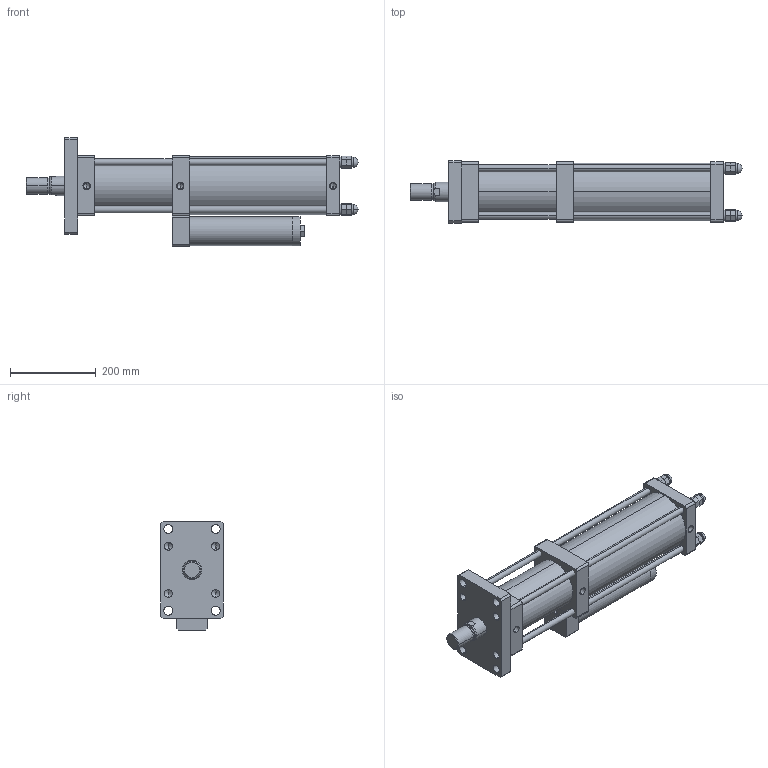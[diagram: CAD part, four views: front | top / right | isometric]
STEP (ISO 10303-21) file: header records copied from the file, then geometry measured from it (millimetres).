
FILE_DESCRIPTION (( 'STEP AP203' ), '1' );
FILE_NAME ('MPTC-100-15-13T.STEP', '2016-03-29T06:57:19', ( 'WIN' ), ( '' ), 'SwSTEP 2.0', 'SolidWorks 2014', '' );
FILE_SCHEMA (( 'CONFIG_CONTROL_DESIGN' ));
Length unit declared in the file: millimetre
Products named in the file (1): MPTC-100-15-13T
Bounding box: 773 x 145 x 253.5 mm (x, y, z)
Volume: 10403537.3 mm3; surface area: 745708.3 mm2
Topology: 13 solids, 13 shells, 399 faces, 980 edges, 555 vertices
Faces by surface type: plane 187, cylinder 80, torus 48, bspline 48, cone 36
Entity records: 12745 total; most frequent: CARTESIAN_POINT 3687, DIRECTION 1934, ORIENTED_EDGE 1812, EDGE_CURVE 906, AXIS2_PLACEMENT_3D 726, VERTEX_POINT 555, LINE 482, VECTOR 482
